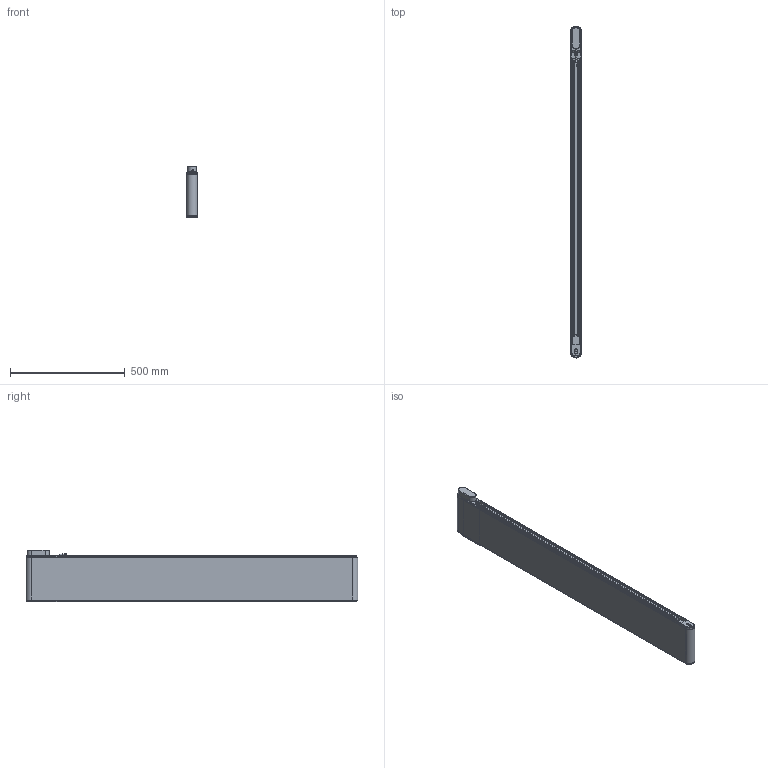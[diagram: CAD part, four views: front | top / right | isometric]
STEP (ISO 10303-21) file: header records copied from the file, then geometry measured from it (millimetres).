
FILE_DESCRIPTION(/* description */ (''),/* implementation_level */ '2;1');
FILE_NAME(/* name */ 'G:\DATEN\CAD\Förderband\Marketing\3D-Modelle (Standard)\FR-40-200-Q\FR-40-200-Q-1400-K.stp',/* time_stamp */ '2019-05-09T09:53:43+02:00',/* author */ ('melanie.ochs'),/* organization */ (''),/* preprocessor_version */ 'ST-DEVELOPER v17',/* originating_system */ 'Autodesk Inventor 2019',/* authorisation */ '');
FILE_SCHEMA (('CONFIG_CONTROL_DESIGN','FEATURE_BASED_PROCESS_PLANNING','TECHNICAL_DATA_PACKAGING'));
Length unit declared in the file: centimetre
Products named in the file (1): FR-40-200-Q-1400-K
Bounding box: 46.6 x 1446.6 x 224.5 mm (x, y, z)
Volume: 3864773.1 mm3; surface area: 1886685.8 mm2
Topology: 6 solids, 25 shells, 937 faces, 2592 edges, 1738 vertices
Faces by surface type: plane 474, cylinder 297, cone 76, bspline 61, torus 29
Full cylindrical faces by diameter (mm): 1 x6, 3 x1, 4 x12, 4.3 x4, 4.917 x3, 5 x11, 5.5 x8, 6 x4, 6.5 x1, 6.773 x1, 6.917 x3, 8 x4, 8.3 x10, 8.5 x8, 8.773 x1, 10 x2, 11 x1, 12 x6, 25 x2, 28 x2, 28.01 x2, 30 x1
Entity records: 32072 total; most frequent: CARTESIAN_POINT 7077, ORIENTED_EDGE 5140, DIRECTION 4924, EDGE_CURVE 2570, AXIS2_PLACEMENT_3D 1774, VERTEX_POINT 1737, LINE 1376, VECTOR 1376
